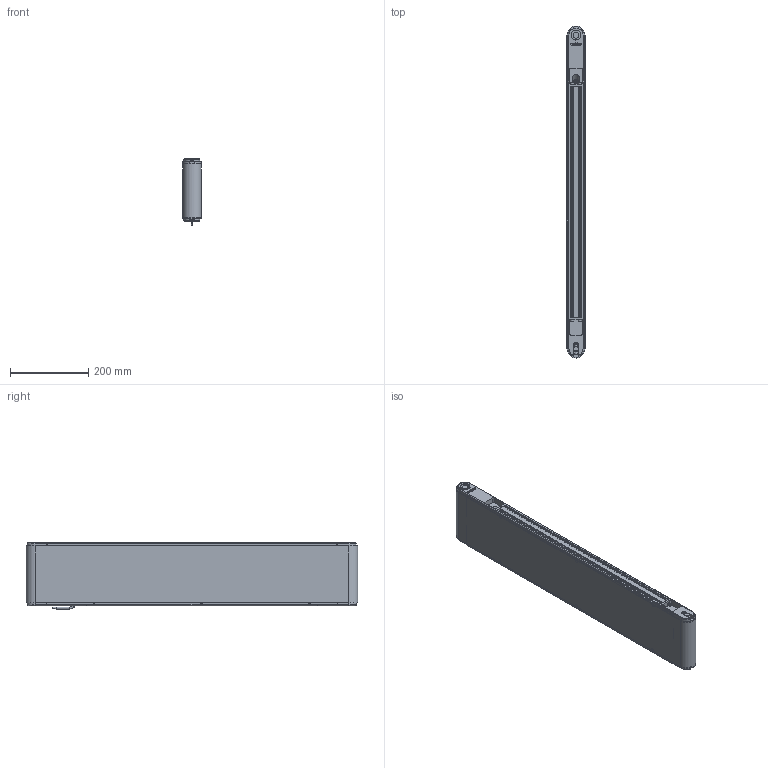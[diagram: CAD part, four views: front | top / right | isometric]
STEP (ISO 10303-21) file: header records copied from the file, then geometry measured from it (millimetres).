
FILE_DESCRIPTION(/* description */ (''),/* implementation_level */ '2;1');
FILE_NAME(/* name */ 'G:\DATEN\CAD\Förderband\Marketing\3D-Modelle (Standard)\FR-40-160\FR-40-160-800-K.stp',/* time_stamp */ '2019-05-08T09:08:13+02:00',/* author */ ('melanie.ochs'),/* organization */ (''),/* preprocessor_version */ 'ST-DEVELOPER v17',/* originating_system */ 'Autodesk Inventor 2019',/* authorisation */ '');
FILE_SCHEMA (('CONFIG_CONTROL_DESIGN'));
Length unit declared in the file: centimetre
Products named in the file (1): FR-40-160-800-K
Bounding box: 46.6 x 846.6 x 168.53 mm (x, y, z)
Volume: 2297940.7 mm3; surface area: 954101.6 mm2
Topology: 6 solids, 25 shells, 1002 faces, 2728 edges, 1821 vertices
Faces by surface type: plane 513, cylinder 278, bspline 122, cone 64, torus 25
Full cylindrical faces by diameter (mm): 2 x2, 4 x6, 4.3 x4, 4.917 x1, 5 x11, 5.5 x8, 6 x4, 6.5 x1, 6.647 x3, 8 x4, 8.3 x6, 8.5 x8, 8.773 x1, 10 x1, 11 x1, 12 x5, 15 x2, 20 x4, 25 x2, 28 x4
Entity records: 34116 total; most frequent: CARTESIAN_POINT 8111, ORIENTED_EDGE 5426, DIRECTION 4904, EDGE_CURVE 2713, VERTEX_POINT 1821, AXIS2_PLACEMENT_3D 1702, LINE 1500, VECTOR 1500
